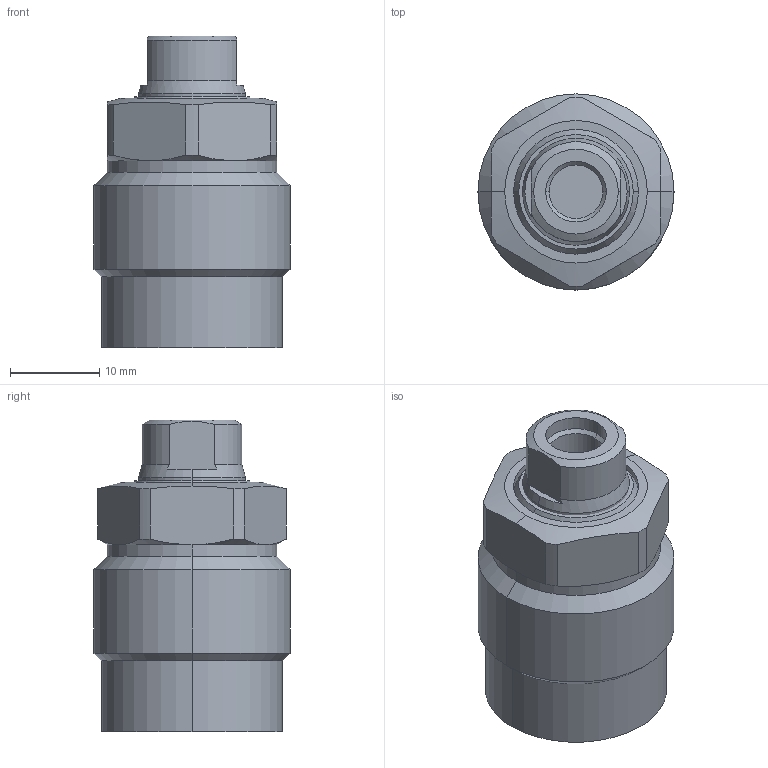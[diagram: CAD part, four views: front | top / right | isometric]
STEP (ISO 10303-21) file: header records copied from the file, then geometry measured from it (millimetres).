
FILE_DESCRIPTION((' '),'2;1');
FILE_NAME( 'TGP22-AS.x_t.stp', '2025-02-10T16:03:51', (' '), ('--- Datakit www.datakit.com---'), ' Datakit CrossCadWare V2024.1 Dec 21 2023', 'Mastercam 2025', ' ');
FILE_SCHEMA(('AUTOMOTIVE_DESIGN { 1 0 10303 214 1 1 1 1 }'));
Length unit declared in the file: millimetre
Products named in the file (1): TGP22-AS
Bounding box: 22 x 22 x 35 mm (x, y, z)
Volume: 10337.9 mm3; surface area: 3642.5 mm2
Topology: 2 solids, 2 shells, 82 faces, 189 edges, 118 vertices
Faces by surface type: cylinder 34, cone 22, plane 22, torus 4
Entity records: 2442 total; most frequent: CARTESIAN_POINT 536, DIRECTION 422, ORIENTED_EDGE 374, EDGE_CURVE 187, AXIS2_PLACEMENT_3D 180, VERTEX_POINT 118, CIRCLE 97, EDGE_LOOP 91
